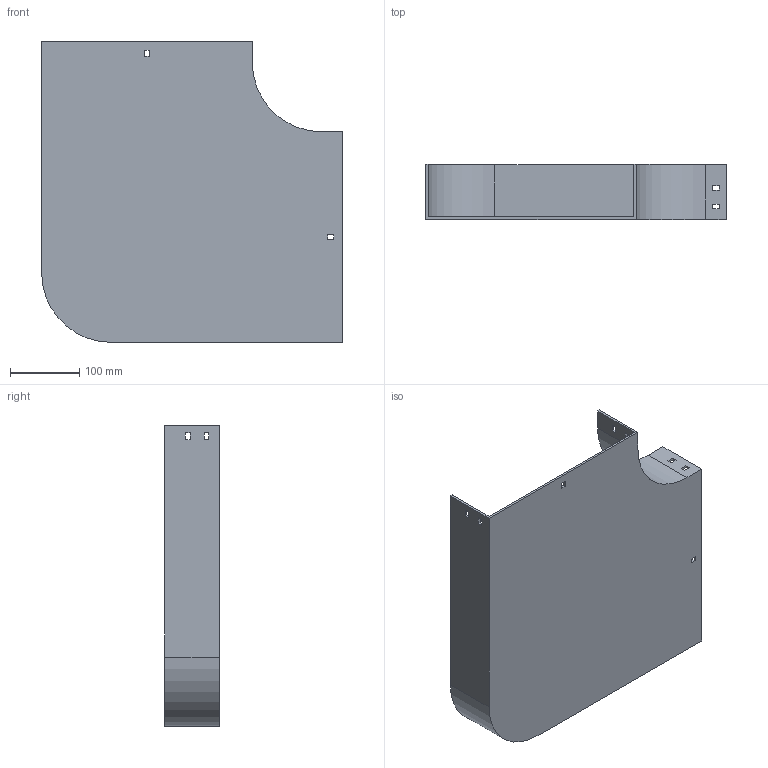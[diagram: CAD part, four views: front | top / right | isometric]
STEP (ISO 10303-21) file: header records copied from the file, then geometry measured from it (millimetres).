
FILE_DESCRIPTION (( 'STEP AP214' ), '1' );
FILE_NAME ('10F1C300.step', '2025-02-21T12:57:36', ( '' ), ( '' ), 'SwSTEP 2.0', 'SolidWorks 2023', '' );
FILE_SCHEMA (( 'AUTOMOTIVE_DESIGN' ));
Length unit declared in the file: millimetre
Products named in the file (1): 10F1C300
Bounding box: 434 x 79 x 434 mm (x, y, z)
Volume: 873117.1 mm3; surface area: 506925.6 mm2
Topology: 1 solids, 1 shells, 58 faces, 168 edges, 112 vertices
Faces by surface type: plane 54, cylinder 4
Entity records: 1943 total; most frequent: CARTESIAN_POINT 339, ORIENTED_EDGE 336, DIRECTION 294, EDGE_CURVE 168, VECTOR 160, LINE 160, VERTEX_POINT 112, EDGE_LOOP 78
